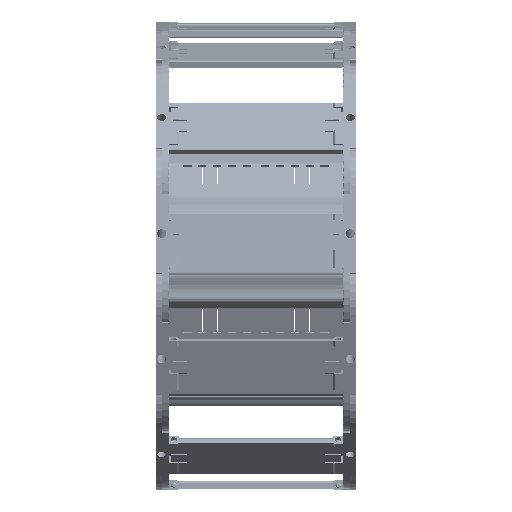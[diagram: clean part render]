
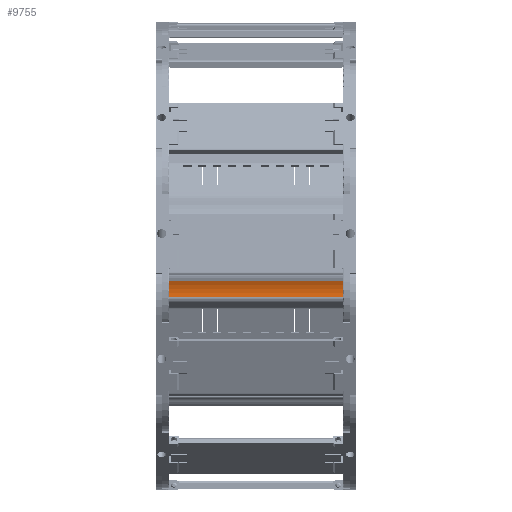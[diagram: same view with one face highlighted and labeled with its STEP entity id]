
A CAD part, front view. The second image highlights one B-rep face of the part: STEP entity #9755.
In plain terms, the highlighted cylindrical face has radius 20 mm (diameter 40 mm), a partial arc.
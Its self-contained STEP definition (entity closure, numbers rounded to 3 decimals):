
#9410=CARTESIAN_POINT('',(151.137,196.327,196.328));
#9411=VERTEX_POINT('',#9410);
#9419=CARTESIAN_POINT('',(161.64,199.307,196.328));
#9420=VERTEX_POINT('',#9419);
#9421=CARTESIAN_POINT('',(161.64,179.307,196.328));
#9422=DIRECTION('',(0.0,0.0,-1.0));
#9423=DIRECTION('',(0.0,-1.0,0.0));
#9424=AXIS2_PLACEMENT_3D('',#9421,#9422,#9423);
#9425=CIRCLE('',#9424,20.0);
#9426=EDGE_CURVE('',#9411,#9420,#9425,.T.);
#9712=CARTESIAN_POINT('',(161.64,199.307,79.728));
#9713=VERTEX_POINT('',#9712);
#9714=CARTESIAN_POINT('',(161.64,199.307,79.728));
#9715=DIRECTION('',(0.0,0.0,1.0));
#9716=VECTOR('',#9715,116.6);
#9717=LINE('',#9714,#9716);
#9718=EDGE_CURVE('',#9713,#9420,#9717,.T.);
#9731=CARTESIAN_POINT('',(161.64,179.307,79.528));
#9732=DIRECTION('',(0.,0.,1.0));
#9733=DIRECTION('',(0.0,-1.0,0.0));
#9734=AXIS2_PLACEMENT_3D('',#9731,#9732,#9733);
#9735=CYLINDRICAL_SURFACE('',#9734,20.0);
#9736=CARTESIAN_POINT('',(151.137,196.327,79.728));
#9737=VERTEX_POINT('',#9736);
#9738=CARTESIAN_POINT('',(151.137,196.327,79.728));
#9739=DIRECTION('',(0.0,0.0,1.0));
#9740=VECTOR('',#9739,116.6);
#9741=LINE('',#9738,#9740);
#9742=EDGE_CURVE('',#9737,#9411,#9741,.T.);
#9743=ORIENTED_EDGE('',*,*,#9742,.F.);
#9744=CARTESIAN_POINT('',(161.64,179.307,79.728));
#9745=DIRECTION('',(0.0,0.0,-1.0));
#9746=DIRECTION('',(0.0,-1.0,0.0));
#9747=AXIS2_PLACEMENT_3D('',#9744,#9745,#9746);
#9748=CIRCLE('',#9747,20.0);
#9749=EDGE_CURVE('',#9737,#9713,#9748,.T.);
#9750=ORIENTED_EDGE('',*,*,#9749,.T.);
#9751=ORIENTED_EDGE('',*,*,#9718,.T.);
#9752=ORIENTED_EDGE('',*,*,#9426,.F.);
#9753=EDGE_LOOP('',(#9743,#9750,#9751,#9752));
#9754=FACE_OUTER_BOUND('',#9753,.T.);
#9755=ADVANCED_FACE('',(#9754),#9735,.F.);
